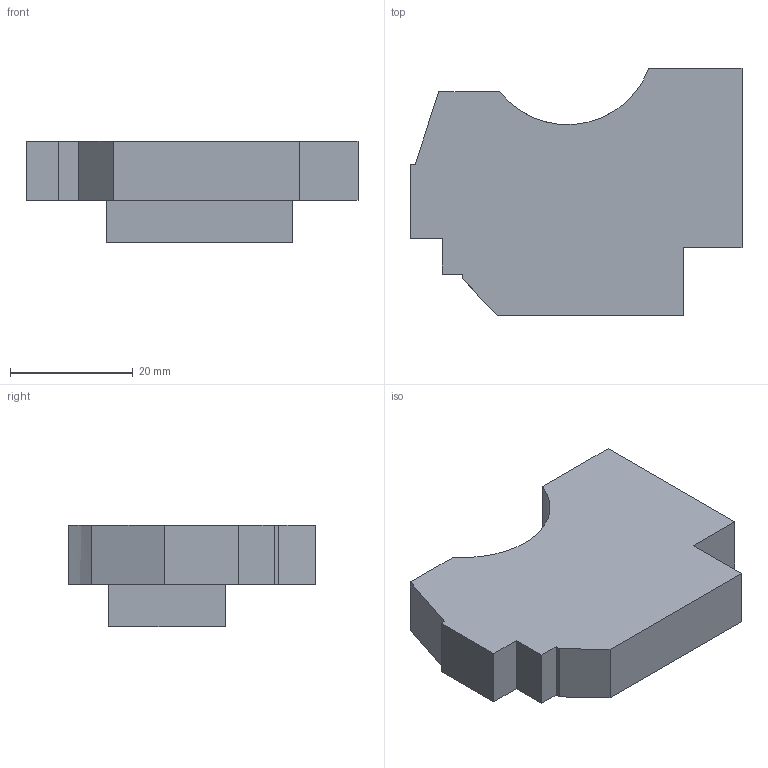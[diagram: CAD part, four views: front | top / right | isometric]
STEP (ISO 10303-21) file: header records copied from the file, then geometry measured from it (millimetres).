
FILE_DESCRIPTION(/* description */ ('STEP AP242 Edition 2','CAx-IF Rec.Pracs.---Representation and Presentation of Product Manufacturing Information (PMI)---4.0---2014-10-13','CAx-IF Rec.Pracs.---3D Tessellated Geometry---0.4---2014-09-14','2;1','CAx-IF Rec.Pracs.---User Defined Attributes---1.5---2016-08-15'),/* implementation_level */ '2;1');
FILE_NAME(/* name */ 'Assembly 1 - laser_head',/* time_stamp */ '2026-02-04T12:55:11Z',/* author */ (''),/* organization */ (''),/* preprocessor_version */ 'ST-DEVELOPER v20',/* originating_system */ 'ONSHAPE BY PTC INC, 1.210',/* authorisation */ ' ');
FILE_SCHEMA (('AP242_MANAGED_MODEL_BASED_3D_ENGINEERING_MIM_LF { 1 0 10303 442 3 1 4 }'));
Length unit declared in the file: metre
Products named in the file (1): laser_head
Bounding box: 54.01 x 40.23 x 16.56 mm (x, y, z)
Volume: 20164.5 mm3; surface area: 5862 mm2
Topology: 1 solids, 1 shells, 23 faces, 63 edges, 42 vertices
Faces by surface type: plane 22, cylinder 1
Entity records: 743 total; most frequent: CARTESIAN_POINT 129, ORIENTED_EDGE 126, DIRECTION 115, EDGE_CURVE 63, LINE 59, VECTOR 59, VERTEX_POINT 42, AXIS2_PLACEMENT_3D 28
